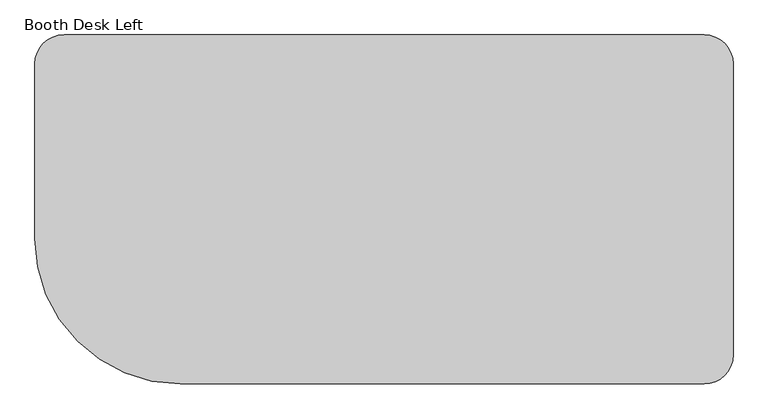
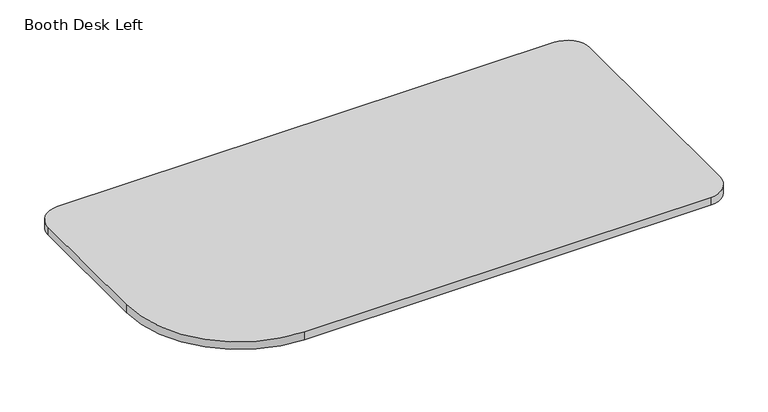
"""IFC4 building model written with IfcOpenShell, lengths in millimetres: furniture geometry, DBLTD_Sixteen3_PrivacyScreens_Artus_Desk : Booth Desk Left."""

from ifc_helpers import new_model, si_unit, point, frame, frame_2d, origin, place, context, project, spatial, polyline, circle_curve, trimmed, segment, composite_curve, outline, extrude, source, transform, mapped, element, save


def booth_desk_left_ba8bafd5(model_context):
    return source(origin(), model_context, "Body", "SweptSolid", [
        extrude(outline(composite_curve([segment(trimmed(circle_curve(frame_2d((550.0, 1070.0)), 50.0), [point((550.0, 1120.0))], [point((600.0, 1070.0))], False, "CARTESIAN"), True, "CONTINUOUS"), segment(polyline([(600.0, 1070.0), (600.0, 570.0)]), True, "CONTINUOUS"), segment(trimmed(circle_curve(frame_2d((550.0, 570.0)), 50.0), [point((600.0, 570.0))], [point((550.0, 520.0))], False, "CARTESIAN"), True, "CONTINUOUS"), segment(polyline([(550.0, 520.0), (-350.0, 520.0)]), True, "CONTINUOUS"), segment(trimmed(circle_curve(frame_2d((-350.0, 770.0)), 250.0), [point((-350.0, 520.0))], [point((-600.0, 770.0))], False, "CARTESIAN"), True, "CONTINUOUS"), segment(polyline([(-600.0, 770.0), (-600.0, 1070.0)]), True, "CONTINUOUS"), segment(trimmed(circle_curve(frame_2d((-550.0, 1070.0)), 50.0), [point((-600.0, 1070.0))], [point((-550.0, 1120.0))], False, "CARTESIAN"), True, "CONTINUOUS"), segment(polyline([(-550.0, 1120.0), (550.0, 1120.0)]), True, "CONTINUOUS")], self_intersect=False)), frame((0.0, 0.0, 732.0), z_axis=(0.0, 0.0, 1.0), x_axis=(1.0, 0.0, 0.0)), (0.0, 0.0, 1.0), 18.0),
    ])


if __name__ == "__main__":
    model = new_model("IFC4")
    model_context = context("Model", 3, world=origin())
    ifc_project = project(units=[si_unit("LENGTHUNIT", "METRE", prefix="MILLI")], contexts=[model_context])
    site = spatial("IfcSite", under=ifc_project)
    building = spatial("IfcBuilding", under=site)
    placement = place(None, origin())
    booth_desk_left_shape = booth_desk_left_ba8bafd5(model_context)
    element("IfcFurniture", 1, ObjectType="DBLTD_Sixteen3_PrivacyScreens_Artus_Desk : Booth Desk Left", at=placement, inside=building, context=model_context, shape_type="MappedRepresentation", body=[
        mapped(booth_desk_left_shape, transform((0.0, 0.0, 0.0), x_axis=(1.0, 0.0, 0.0), y_axis=(0.0, 1.0, 0.0), z_axis=(0.0, 0.0, 1.0))),
    ])
    save(model, "model.ifc")
